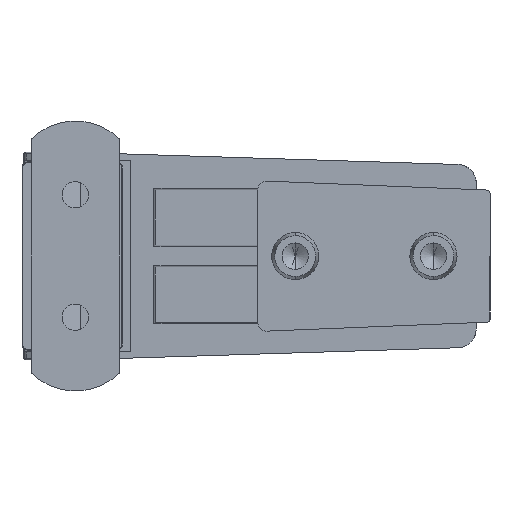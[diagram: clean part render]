
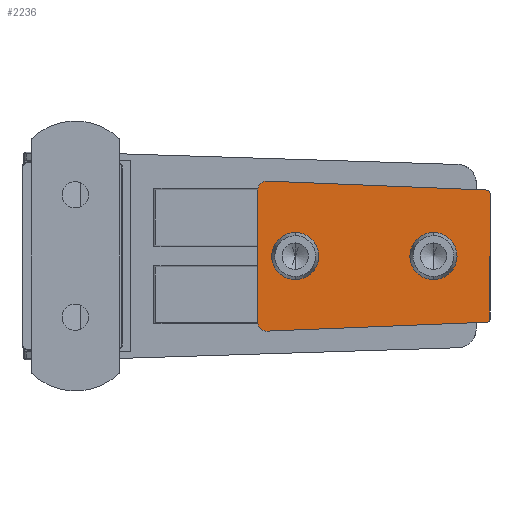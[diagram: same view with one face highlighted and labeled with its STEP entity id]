
A CAD part, front view. The second image highlights one B-rep face of the part: STEP entity #2236.
In plain terms, the highlighted planar face has unit normal (0, -1, 0) as drawn and (0, 0, -1) by its records, which use the part's own axes.
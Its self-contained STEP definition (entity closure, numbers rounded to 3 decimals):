
#135 = EDGE_CURVE ( 'NONE', #2230, #192, #2736, .T. ) ;
#136 = ORIENTED_EDGE ( 'NONE', *, *, #138, .T. ) ;
#138 = EDGE_CURVE ( 'NONE', #2190, #2186, #2733, .T. ) ;
#141 = ORIENTED_EDGE ( 'NONE', *, *, #171, .F. ) ;
#150 = VERTEX_POINT ( 'NONE', #2780 ) ;
#154 = ORIENTED_EDGE ( 'NONE', *, *, #2235, .F. ) ;
#163 = ORIENTED_EDGE ( 'NONE', *, *, #164, .F. ) ;
#164 = EDGE_CURVE ( 'NONE', #2212, #183, #2806, .T. ) ;
#168 = EDGE_CURVE ( 'NONE', #183, #211, #2790, .T. ) ;
#171 = EDGE_CURVE ( 'NONE', #174, #2234, #2851, .T. ) ;
#172 = ORIENTED_EDGE ( 'NONE', *, *, #195, .F. ) ;
#173 = EDGE_CURVE ( 'NONE', #150, #174, #2793, .T. ) ;
#174 = VERTEX_POINT ( 'NONE', #2845 ) ;
#175 = ORIENTED_EDGE ( 'NONE', *, *, #209, .T. ) ;
#177 = ORIENTED_EDGE ( 'NONE', *, *, #193, .F. ) ;
#182 = EDGE_LOOP ( 'NONE', ( #203, #136 ) ) ;
#183 = VERTEX_POINT ( 'NONE', #2836 ) ;
#184 = ORIENTED_EDGE ( 'NONE', *, *, #2210, .F. ) ;
#192 = VERTEX_POINT ( 'NONE', #2829 ) ;
#193 = EDGE_CURVE ( 'NONE', #192, #2207, #2824, .T. ) ;
#194 = ORIENTED_EDGE ( 'NONE', *, *, #135, .F. ) ;
#195 = EDGE_CURVE ( 'NONE', #211, #150, #2823, .T. ) ;
#196 = ORIENTED_EDGE ( 'NONE', *, *, #168, .F. ) ;
#203 = ORIENTED_EDGE ( 'NONE', *, *, #2166, .T. ) ;
#209 = EDGE_CURVE ( 'NONE', #2191, #2188, #2868, .T. ) ;
#211 = VERTEX_POINT ( 'NONE', #2860 ) ;
#2166 = EDGE_CURVE ( 'NONE', #2186, #2190, #5742, .T. ) ;
#2186 = VERTEX_POINT ( 'NONE', #5807 ) ;
#2188 = VERTEX_POINT ( 'NONE', #5794 ) ;
#2190 = VERTEX_POINT ( 'NONE', #5796 ) ;
#2191 = VERTEX_POINT ( 'NONE', #5799 ) ;
#2194 = EDGE_CURVE ( 'NONE', #2188, #2191, #5803, .T. ) ;
#2207 = VERTEX_POINT ( 'NONE', #5845 ) ;
#2210 = EDGE_CURVE ( 'NONE', #2207, #2212, #5823, .T. ) ;
#2212 = VERTEX_POINT ( 'NONE', #5830 ) ;
#2225 = EDGE_LOOP ( 'NONE', ( #154, #141, #2245, #172, #196, #163, #184, #177, #194 ) ) ;
#2230 = VERTEX_POINT ( 'NONE', #5908 ) ;
#2233 = ORIENTED_EDGE ( 'NONE', *, *, #2194, .T. ) ;
#2234 = VERTEX_POINT ( 'NONE', #5902 ) ;
#2235 = EDGE_CURVE ( 'NONE', #2234, #2230, #5893, .T. ) ;
#2236 = ADVANCED_FACE ( 'NONE', ( #5895, #5896, #5903 ), #5901, .F. ) ;
#2241 = EDGE_LOOP ( 'NONE', ( #2233, #175 ) ) ;
#2245 = ORIENTED_EDGE ( 'NONE', *, *, #173, .F. ) ;
#2728 = CARTESIAN_POINT ( 'NONE',  ( 12., -28., 0. ) ) ;
#2733 = CIRCLE ( 'NONE', #2781, 3.75 ) ;
#2736 = LINE ( 'NONE', #2743, #2782 ) ;
#2742 = DIRECTION ( 'NONE',  ( -1., 0., 0. ) ) ;
#2743 = CARTESIAN_POINT ( 'NONE',  ( 1.562, 0., 0. ) ) ;
#2766 = DIRECTION ( 'NONE',  ( 1., 0., 0. ) ) ;
#2767 = DIRECTION ( 'NONE',  ( 0., 0., 1. ) ) ;
#2780 = CARTESIAN_POINT ( 'NONE',  ( 22.02, -37., 0. ) ) ;
#2781 = AXIS2_PLACEMENT_3D ( 'NONE', #2728, #2767, #2766 ) ;
#2782 = VECTOR ( 'NONE', #2742, 1000. ) ;
#2786 = DIRECTION ( 'NONE',  ( 1., 0., 0. ) ) ;
#2787 = DIRECTION ( 'NONE',  ( 0., 0., 1. ) ) ;
#2788 = CARTESIAN_POINT ( 'NONE',  ( 1.98, -36.5, 0. ) ) ;
#2790 = CIRCLE ( 'NONE', #2794, 0.5 ) ;
#2791 = DIRECTION ( 'NONE',  ( 0.041, -0.999, 0. ) ) ;
#2792 = VECTOR ( 'NONE', #2791, 1000. ) ;
#2793 = CIRCLE ( 'NONE', #2795, 0.5 ) ;
#2794 = AXIS2_PLACEMENT_3D ( 'NONE', #2788, #2787, #2786 ) ;
#2795 = AXIS2_PLACEMENT_3D ( 'NONE', #2850, #2819, #2842 ) ;
#2797 = VECTOR ( 'NONE', #2849, 1000. ) ;
#2798 = CARTESIAN_POINT ( 'NONE',  ( 22.519, -36.52, 0. ) ) ;
#2805 = CARTESIAN_POINT ( 'NONE',  ( 0.063, -1.561, 0. ) ) ;
#2806 = LINE ( 'NONE', #2805, #2792 ) ;
#2819 = DIRECTION ( 'NONE',  ( 0., 0., 1. ) ) ;
#2822 = CARTESIAN_POINT ( 'NONE',  ( 1.98, -37., 0. ) ) ;
#2823 = LINE ( 'NONE', #2822, #2875 ) ;
#2824 = CIRCLE ( 'NONE', #2882, 1.5 ) ;
#2829 = CARTESIAN_POINT ( 'NONE',  ( 1.562, 0., 0. ) ) ;
#2836 = CARTESIAN_POINT ( 'NONE',  ( 1.481, -36.52, 0. ) ) ;
#2842 = DIRECTION ( 'NONE',  ( 1., 0., 0. ) ) ;
#2845 = CARTESIAN_POINT ( 'NONE',  ( 22.519, -36.52, 0. ) ) ;
#2849 = DIRECTION ( 'NONE',  ( 0.041, 0.999, 0. ) ) ;
#2850 = CARTESIAN_POINT ( 'NONE',  ( 22.02, -36.5, 0. ) ) ;
#2851 = LINE ( 'NONE', #2798, #2797 ) ;
#2855 = DIRECTION ( 'NONE',  ( 1., 0., 0. ) ) ;
#2856 = DIRECTION ( 'NONE',  ( 0., 0., 1. ) ) ;
#2860 = CARTESIAN_POINT ( 'NONE',  ( 1.98, -37., 0. ) ) ;
#2863 = CARTESIAN_POINT ( 'NONE',  ( 12., -6., 0. ) ) ;
#2868 = CIRCLE ( 'NONE', #2870, 3.75 ) ;
#2870 = AXIS2_PLACEMENT_3D ( 'NONE', #2863, #2856, #2855 ) ;
#2874 = DIRECTION ( 'NONE',  ( 1., 0., 0. ) ) ;
#2875 = VECTOR ( 'NONE', #2874, 1000. ) ;
#2879 = DIRECTION ( 'NONE',  ( 1., 0., 0. ) ) ;
#2880 = DIRECTION ( 'NONE',  ( 0., 0., 1. ) ) ;
#2881 = CARTESIAN_POINT ( 'NONE',  ( 1.562, -1.5, 0. ) ) ;
#2882 = AXIS2_PLACEMENT_3D ( 'NONE', #2881, #2880, #2879 ) ;
#5741 = AXIS2_PLACEMENT_3D ( 'NONE', #5770, #5764, #5760 ) ;
#5742 = CIRCLE ( 'NONE', #5741, 3.75 ) ;
#5760 = DIRECTION ( 'NONE',  ( 1., 0., 0. ) ) ;
#5764 = DIRECTION ( 'NONE',  ( 0., 0., 1. ) ) ;
#5770 = CARTESIAN_POINT ( 'NONE',  ( 12., -28., 0. ) ) ;
#5784 = DIRECTION ( 'NONE',  ( 1., 0., 0. ) ) ;
#5785 = DIRECTION ( 'NONE',  ( 0., 0., 1. ) ) ;
#5786 = CARTESIAN_POINT ( 'NONE',  ( 12., -6., 0. ) ) ;
#5789 = AXIS2_PLACEMENT_3D ( 'NONE', #5786, #5785, #5784 ) ;
#5794 = CARTESIAN_POINT ( 'NONE',  ( 8.25, -6., 0. ) ) ;
#5796 = CARTESIAN_POINT ( 'NONE',  ( 15.75, -28., 0. ) ) ;
#5799 = CARTESIAN_POINT ( 'NONE',  ( 15.75, -6., 0. ) ) ;
#5803 = CIRCLE ( 'NONE', #5789, 3.75 ) ;
#5807 = CARTESIAN_POINT ( 'NONE',  ( 8.25, -28., 0. ) ) ;
#5819 = DIRECTION ( 'NONE',  ( 1., 0., 0. ) ) ;
#5820 = DIRECTION ( 'NONE',  ( 0., 0., 1. ) ) ;
#5821 = CARTESIAN_POINT ( 'NONE',  ( 1.562, -1.5, 0. ) ) ;
#5822 = AXIS2_PLACEMENT_3D ( 'NONE', #5821, #5820, #5819 ) ;
#5823 = CIRCLE ( 'NONE', #5822, 1.5 ) ;
#5830 = CARTESIAN_POINT ( 'NONE',  ( 0.063, -1.561, 0. ) ) ;
#5845 = CARTESIAN_POINT ( 'NONE',  ( 0.062, -1.5, 0. ) ) ;
#5866 = AXIS2_PLACEMENT_3D ( 'NONE', #5884, #5883, #5882 ) ;
#5882 = DIRECTION ( 'NONE',  ( 1., 0., 0. ) ) ;
#5883 = DIRECTION ( 'NONE',  ( 0., 0., 1. ) ) ;
#5884 = CARTESIAN_POINT ( 'NONE',  ( 22.438, -1.5, 0. ) ) ;
#5889 = DIRECTION ( 'NONE',  ( 1., 0., 0. ) ) ;
#5890 = DIRECTION ( 'NONE',  ( 0., 0., 1. ) ) ;
#5891 = CARTESIAN_POINT ( 'NONE',  ( 22.438, -1.5, 0. ) ) ;
#5892 = AXIS2_PLACEMENT_3D ( 'NONE', #5891, #5890, #5889 ) ;
#5893 = CIRCLE ( 'NONE', #5892, 1.5 ) ;
#5895 = FACE_BOUND ( 'NONE', #2241, .T. ) ;
#5896 = FACE_OUTER_BOUND ( 'NONE', #2225, .T. ) ;
#5901 = PLANE ( 'NONE',  #5866 ) ;
#5902 = CARTESIAN_POINT ( 'NONE',  ( 23.937, -1.561, 0. ) ) ;
#5903 = FACE_BOUND ( 'NONE', #182, .T. ) ;
#5908 = CARTESIAN_POINT ( 'NONE',  ( 22.438, 0., 0. ) ) ;
